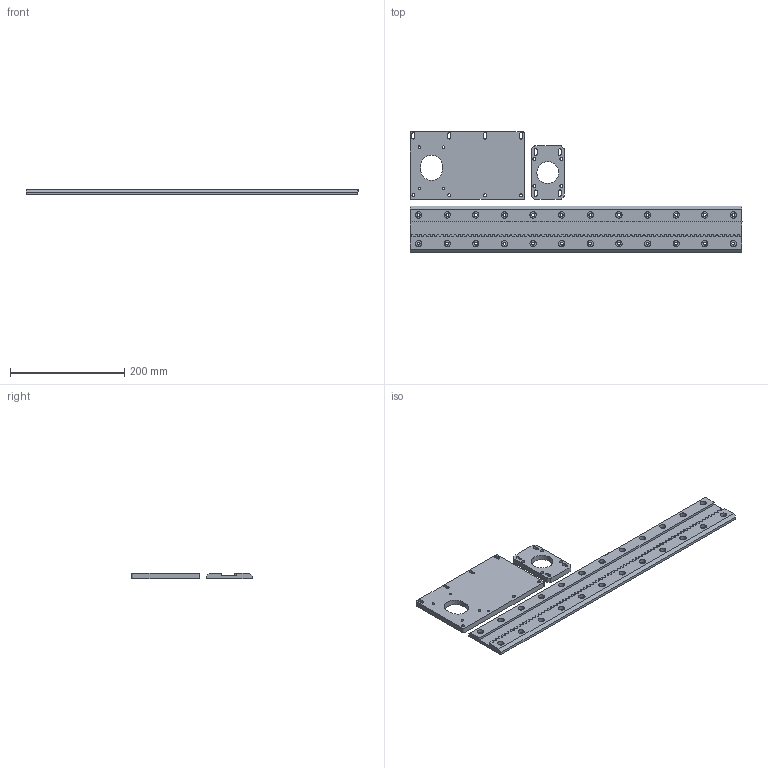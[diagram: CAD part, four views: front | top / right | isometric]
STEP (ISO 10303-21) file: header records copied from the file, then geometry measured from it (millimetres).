
FILE_DESCRIPTION(/* description */ (''),/* implementation_level */ '2;1');
FILE_NAME(/* name */ 'hdpe',/* time_stamp */ '2017-10-27T11:41:36-04:00',/* author */ (''),/* organization */ (''),/* preprocessor_version */ 'ST-DEVELOPER v15',/* originating_system */ '',/* authorisation */ '');
FILE_SCHEMA (('AUTOMOTIVE_DESIGN'));
Length unit declared in the file: millimetre
Products named in the file (1): Document
Bounding box: 580 x 210.22 x 9.5 mm (x, y, z)
Volume: 1125780.3 mm3; surface area: 132482.6 mm2
Topology: 3 solids, 3 shells, 185 faces, 465 edges, 310 vertices
Faces by surface type: bspline 145, plane 40
Entity records: 19476 total; most frequent: CARTESIAN_POINT 16807, ORIENTED_EDGE 930, EDGE_CURVE 465, VERTEX_POINT 310, EDGE_LOOP 301, ADVANCED_FACE 185, FACE_OUTER_BOUND 185, FACE_BOUND 116
